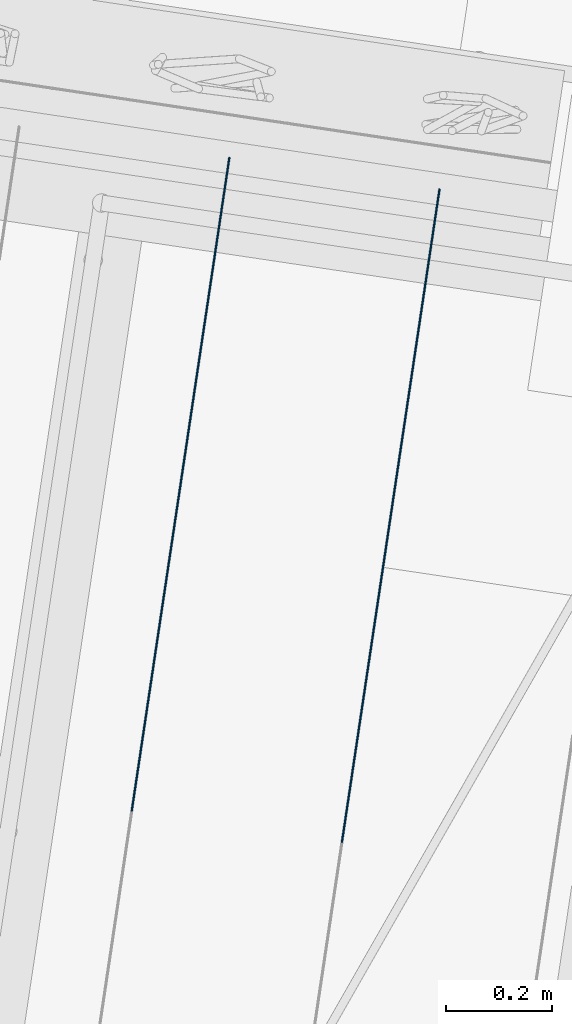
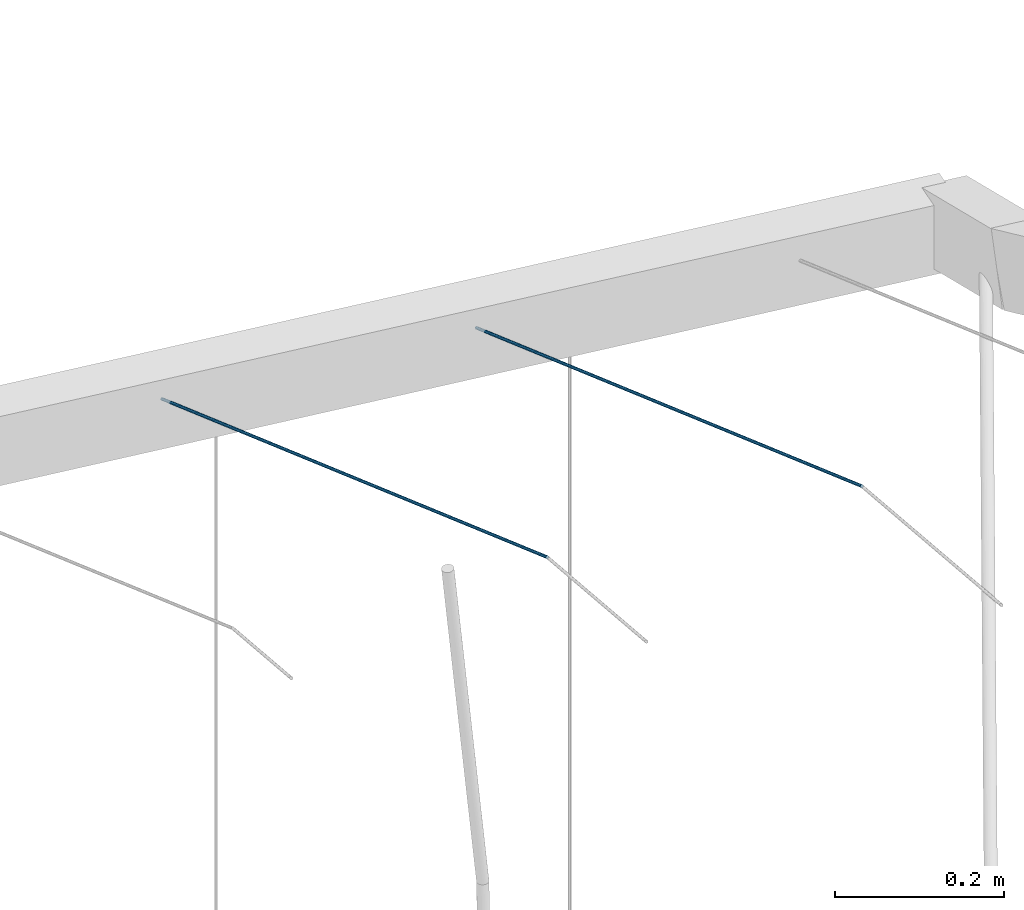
# One storey, part 43 of 142: 2 members, 1 element without a shape of its own.
"""IFC4 building model written with IfcOpenShell, lengths in metres."""

from ifc_helpers import new_model, si_unit, direction, frame, origin_with_axes, place, context, subcontext, project, spatial, circle, extrude, material, material_profile, profile_set, profile_usage, type_object, element, aggregate, save


model = new_model("IFC4")

# Units and contexts
model_context = context("Model", 3, precision=1e-05, world=origin_with_axes(), true_north=direction((0.0, 1.0)))
body_context = subcontext(model_context, "Body", "Model", "MODEL_VIEW")
ifc_project = project(units=[si_unit("LENGTHUNIT", "METRE"), si_unit("AREAUNIT", "SQUARE_METRE"), si_unit("VOLUMEUNIT", "CUBIC_METRE")], contexts=[model_context])

# Site, building, storey
site_placement = place(None, origin_with_axes())
site = spatial("IfcSite", under=ifc_project, at=site_placement, Name="Lares · Rua das Mercês · artigo 4771")
building_placement = place(site_placement, frame((15.0, 9.7, 14.65), z_axis=(0.0, 0.0, 1.0), x_axis=(0.989015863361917, -0.147809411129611, 0.0)))
building = spatial("IfcBuilding", under=site, at=building_placement, Name="Casa Sobreposta")
storey_placement = place(building_placement, origin_with_axes())
storey = spatial("IfcBuildingStorey", under=building, at=storey_placement, Name="00 · Habitação e estacionamento", Elevation=14.65)

# Assembly, members
assembly_placement = place(storey_placement, origin_with_axes())
assembly = element("IfcElementAssembly", 1, at=assembly_placement, inside=storey, Name="Pérgola · prolongamento da estufa 6 m", ObjectType="PERGOLA_GREENHOUSE_EXTENSION", PredefinedType="USERDEFINED")
ifc_material = material(Name="Aço galvanizado / Stahl verzinkt", Category="steel")
ifc_material_profile = material_profile(ifc_material, circle(Radius=0.002))
ifc_profile_set = profile_set([ifc_material_profile], Name="D0.004")
ifc_profile_usage_1 = profile_usage(ifc_profile_set)
member_type = type_object("IfcMemberType", Name="D0.004 / galvanized", PredefinedType="NOTDEFINED", material=ifc_profile_set)
member_1_placement = place(assembly_placement, frame((-0.999999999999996, 5.15650506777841, 6.8157371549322), z_axis=(0.0, 0.905864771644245, -0.423567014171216), x_axis=(1.0, 0.0, 0.0)))
member_1 = element("IfcMember", 2, at=member_1_placement, type_object=member_type, material=ifc_profile_usage_1, Name="Pérgola · fio para trepadeiras", context=body_context, shape_type="SweptSolid", body=[
    extrude(circle(Radius=0.002), origin_with_axes(), (0.0, 0.0, 1.0), 1.3727158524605),
])
ifc_profile_usage_2 = profile_usage(ifc_profile_set)
member_2_placement = place(assembly_placement, frame((-0.599999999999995, 5.15650506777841, 6.8157371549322), z_axis=(0.0, 0.905864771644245, -0.423567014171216), x_axis=(1.0, 0.0, 0.0)))
member_2 = element("IfcMember", 3, at=member_2_placement, type_object=member_type, material=ifc_profile_usage_2, Name="Pérgola · fio para trepadeiras", context=body_context, shape_type="SweptSolid", body=[
    extrude(circle(Radius=0.002), origin_with_axes(), (0.0, 0.0, 1.0), 1.3727158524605),
])
aggregate(assembly, [member_1, member_2])

save(model, "model.ifc")
